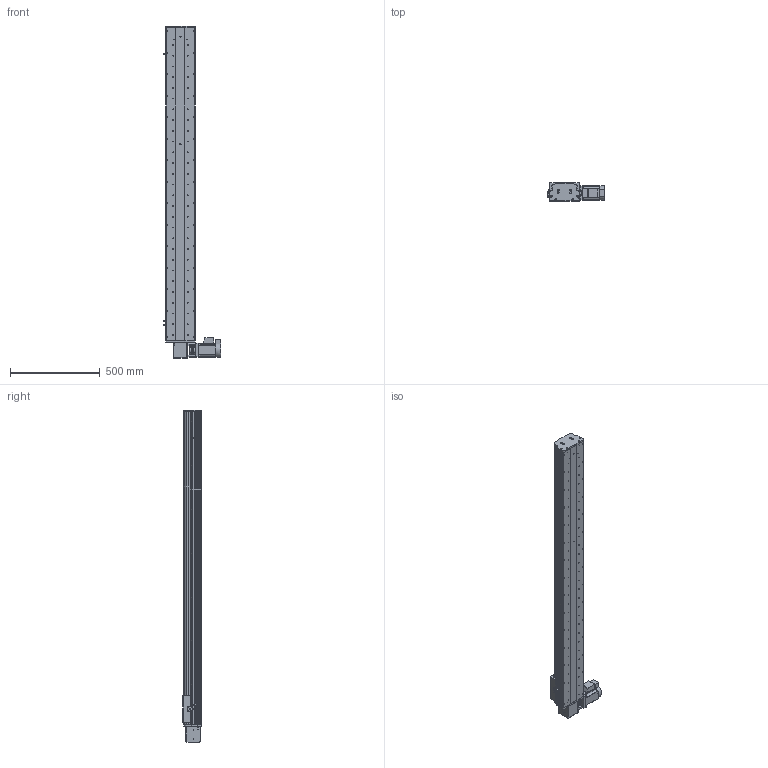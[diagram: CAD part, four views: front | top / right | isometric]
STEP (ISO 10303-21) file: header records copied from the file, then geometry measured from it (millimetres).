
FILE_DESCRIPTION (( 'STEP AP214' ), '1' );
FILE_NAME ('KSD165B-S1500-MRT-CM.STEP', '2017-08-14T06:12:41', ( '微软用户' ), ( '微软中国' ), 'SwSTEP 2.0', 'SolidWorks 2014', '' );
FILE_SCHEMA (( 'AUTOMOTIVE_DESIGN' ));
Length unit declared in the file: millimetre
Products named in the file (16): KSD165耀郪-ヶ傷啣1-肮祭湍; KSD165模组-后端板1-同步带; 130宽马达安装板1-带电机座750W（1）; KSD165模组-同步带滑动座-最新版; KSD165B-S1500-MRT-CM; KSD165模组-同步带防尘盖1-1500行程; KSD165模组同步带底板-1500行程; 拸秶雄ん750W侜督萇儂; 165宽安装板同步带带电机座750W; 165宽马达安装板同步带右; C39ㄜ1419WP; U倰嫖萇假蚾璃; U倰嫖萇EEㄜSX672; 覜茼え68遵圉猾敕; KSD165模组-同步带-防撞垫2; KSD165模组同步带-防撞垫1
Assembly tree (19 placements, depth 2):
  KSD165B-S1500-MRT-CM
    KSD165模组-同步带滑动座-最新版
    130宽马达安装板1-带电机座750W（1）
    KSD165模组-后端板1-同步带
    KSD165耀郪-ヶ傷啣1-肮祭湍
    KSD165模组同步带-防撞垫1
    KSD165模组-同步带-防撞垫2
    覜茼え68遵圉猾敕
    U倰嫖萇EEㄜSX672  x3
    U倰嫖萇假蚾璃  x3
    C39ㄜ1419WP
    165宽马达安装板同步带右
    165宽安装板同步带带电机座750W
    拸秶雄ん750W侜督萇儂
    KSD165模组同步带底板-1500行程
    KSD165模组-同步带防尘盖1-1500行程
Bounding box: 321.2 x 104 x 1854 mm (x, y, z)
Volume: 10142794.3 mm3; surface area: 2311915.5 mm2
Topology: 20 solids, 20 shells, 1586 faces, 4434 edges, 2877 vertices
Faces by surface type: cylinder 903, plane 589, cone 94
Entity records: 51463 total; most frequent: CARTESIAN_POINT 10769, DIRECTION 7956, ORIENTED_EDGE 7520, EDGE_CURVE 3760, AXIS2_PLACEMENT_3D 3048, VERTEX_POINT 2469, VECTOR 1860, LINE 1860
